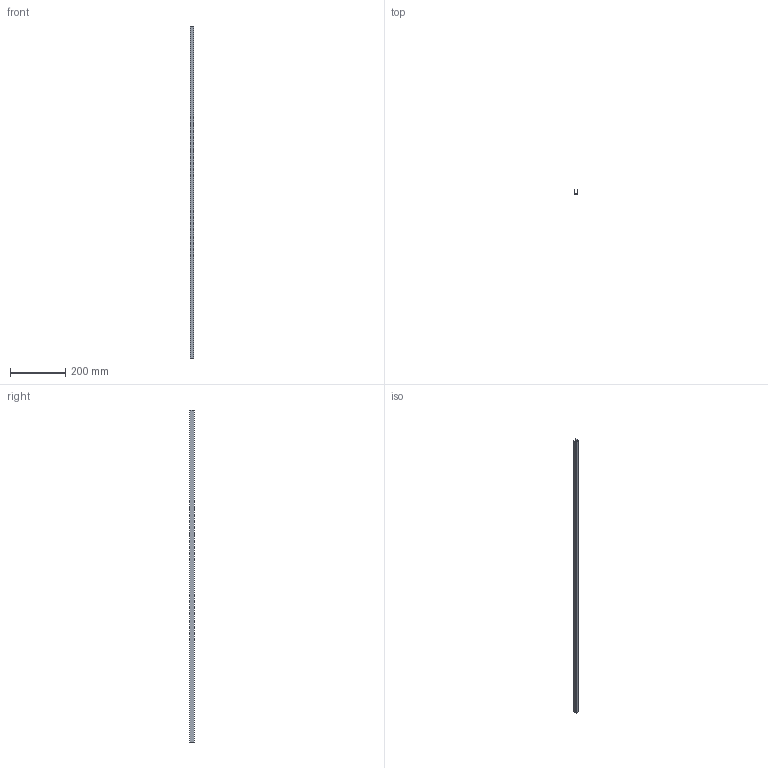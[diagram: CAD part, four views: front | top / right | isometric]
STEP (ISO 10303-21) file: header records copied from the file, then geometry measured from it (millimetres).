
FILE_DESCRIPTION (( 'STEP AP214' ), '1' );
FILE_NAME ('StrongLine alu profil 1030 horní 92115.STEP', '2025-03-11T15:05:38', ( '' ), ( '' ), 'SwSTEP 2.0', 'SolidWorks 2019', '' );
FILE_SCHEMA (( 'AUTOMOTIVE_DESIGN' ));
Length unit declared in the file: millimetre
Products named in the file (2): StrongLine alu profil 1030 horní 92115
Bounding box: 12.7 x 14.85 x 1200 mm (x, y, z)
Volume: 60746.6 mm3; surface area: 101156.1 mm2
Topology: 1 solids, 1 shells, 15 faces, 39 edges, 26 vertices
Faces by surface type: plane 12, cylinder 3
Entity records: 508 total; most frequent: CARTESIAN_POINT 82, DIRECTION 79, ORIENTED_EDGE 78, EDGE_CURVE 39, LINE 33, VECTOR 33, VERTEX_POINT 26, AXIS2_PLACEMENT_3D 23
